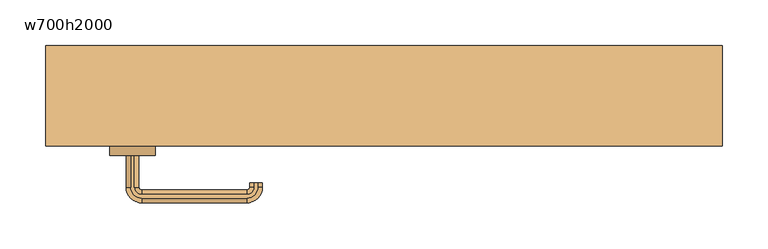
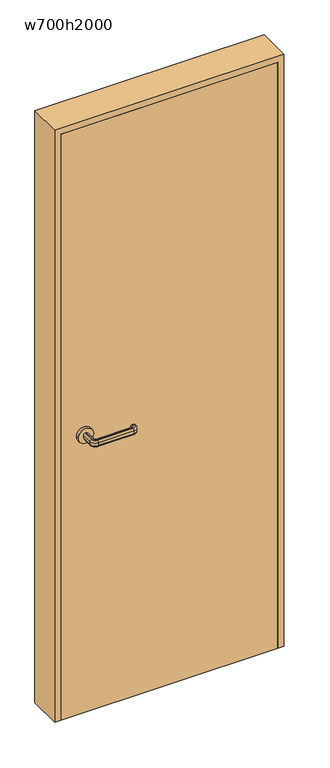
"""IFC4 building model written with IfcOpenShell, lengths in millimetres: door geometry, 片開き : w700h2000."""

from ifc_helpers import new_model, si_unit, point, frame, frame_2d, origin, origin_with_axes, place, context, project, spatial, polyline, circle_curve, ellipse_curve, trimmed, segment, composite_curve, outline, extrude, source, transform, mapped, element, save
from ifc_brep_helpers import plane_surface, cylinder_surface, revolved_surface, advanced_brep


def w700h2000_f851bcb9(model_context):
    return source(origin(), model_context, "Body", "SolidModel", [
        advanced_brep(
        [(-277.0, -65.0, 960.0), (-273.0, -65.0, 960.0), (-268.0, -65.0, 955.0), (-268.0, -65.0, 945.0477623), (-273.0, -65.0, 940.0477623), (-277.0, -65.0, 940.0477623), (-282.0, -65.0, 945.0477623), (-282.0, -65.0, 955.0), (-282.0, -100.0, 955.0), (-277.0, -100.0, 960.0), (-282.0, -100.0, 945.0477623), (-277.0, -100.0, 940.0477623), (-273.0, -100.0, 940.0477623), (-265.0, -108.0, 940.0477623), (-150.0, -108.0, 940.0477623), (-142.0, -100.0, 940.0477623), (-142.0, -95.0, 940.0477623), (-138.0, -95.0, 940.0477623), (-138.0, -100.0, 940.0477623), (-150.0, -112.0, 940.0477623), (-265.0, -112.0, 940.0477623), (-268.0, -100.0, 945.0477623), (-268.0, -100.0, 955.0), (-273.0, -100.0, 960.0), (-265.0, -112.0, 960.0), (-150.0, -112.0, 960.0), (-138.0, -100.0, 960.0), (-138.0, -95.0, 960.0), (-142.0, -95.0, 960.0), (-142.0, -100.0, 960.0), (-150.0, -108.0, 960.0), (-265.0, -108.0, 960.0), (-265.0, -117.0, 955.0), (-265.0, -117.0, 945.0477623), (-265.0, -103.0, 945.0477623), (-265.0, -103.0, 955.0), (-150.0, -117.0, 955.0), (-150.0, -117.0, 945.0477623), (-150.0, -103.0, 945.0477623), (-150.0, -103.0, 955.0), (-133.0, -100.0, 955.0), (-133.0, -100.0, 945.0477623), (-147.0, -100.0, 945.0477623), (-147.0, -100.0, 955.0), (-133.0, -95.0, 955.0), (-133.0, -95.0, 945.0477623), (-147.0, -95.0, 945.0477623), (-147.0, -95.0, 955.0)],
        [
            (0, 1),
            (1, 2, circle_curve(frame((-273.0, -65.0, 955.0), z_axis=(0.0, 1.0, 0.0), x_axis=(-1.0, 0.0, 0.0)), 5.0)),
            (2, 3),
            (3, 4, circle_curve(frame((-273.0, -65.0, 945.0477623), z_axis=(0.0, 1.0, 0.0), x_axis=(-1.0, 0.0, 0.0)), 5.0)),
            (4, 5),
            (5, 6, circle_curve(frame((-277.0, -65.0, 945.0477623), z_axis=(0.0, 1.0, 0.0), x_axis=(-1.0, 0.0, 0.0)), 5.0)),
            (6, 7),
            (7, 0, circle_curve(frame((-277.0, -65.0, 955.0), z_axis=(0.0, 1.0, 0.0), x_axis=(-1.0, 0.0, 0.0)), 5.0)),
            (7, 8),
            (8, 9, circle_curve(frame((-277.0, -100.0, 955.0), z_axis=(0.0, 1.0, 0.0), x_axis=(-1.0, 0.0, 0.0)), 5.0)),
            (9, 0),
            (6, 10),
            (10, 8),
            (5, 11),
            (11, 10, circle_curve(frame((-277.0, -100.0, 945.0477623), z_axis=(0.0, 1.0, 0.0), x_axis=(-1.0, 0.0, 0.0)), 5.0)),
            (4, 12),
            (12, 13, circle_curve(frame((-265.0, -100.0, 940.0477623), z_axis=(0.0, 0.0, 1.0), x_axis=(-1.0, 0.0, 0.0)), 8.0)),
            (13, 14),
            (14, 15, circle_curve(frame((-150.0, -100.0, 940.0477623), z_axis=(0.0, 0.0, 1.0), x_axis=(0.0, -1.0, 0.0)), 8.0)),
            (15, 16),
            (16, 17),
            (17, 18),
            (18, 19, circle_curve(frame((-150.0, -100.0, 940.0477623), z_axis=(0.0, 0.0, -1.0), x_axis=(0.0, -1.0, 0.0)), 12.0)),
            (19, 20),
            (20, 11, circle_curve(frame((-265.0, -100.0, 940.0477623), z_axis=(0.0, 0.0, -1.0), x_axis=(-1.0, 0.0, 0.0)), 12.0)),
            (3, 21),
            (21, 12, circle_curve(frame((-273.0, -100.0, 945.0477623), z_axis=(0.0, 1.0, 0.0), x_axis=(-1.0, 0.0, 0.0)), 5.0)),
            (2, 22),
            (22, 21),
            (1, 23),
            (23, 22, circle_curve(frame((-273.0, -100.0, 955.0), z_axis=(0.0, 1.0, 0.0), x_axis=(-1.0, 0.0, 0.0)), 5.0)),
            (9, 24, circle_curve(frame((-265.0, -100.0, 960.0), z_axis=(0.0, 0.0, 1.0), x_axis=(-1.0, 0.0, 0.0)), 12.0)),
            (24, 25),
            (25, 26, circle_curve(frame((-150.0, -100.0, 960.0), z_axis=(0.0, 0.0, 1.0), x_axis=(0.0, -1.0, 0.0)), 12.0)),
            (26, 27),
            (27, 28),
            (28, 29),
            (29, 30, circle_curve(frame((-150.0, -100.0, 960.0), z_axis=(0.0, 0.0, -1.0), x_axis=(0.0, -1.0, 0.0)), 8.0)),
            (30, 31),
            (31, 23, circle_curve(frame((-265.0, -100.0, 960.0), z_axis=(0.0, 0.0, -1.0), x_axis=(-1.0, 0.0, 0.0)), 8.0)),
            (32, 24, circle_curve(frame((-265.0, -112.0, 955.0), z_axis=(-1.0, 0.0, 0.0), x_axis=(0.0, -1.0, 0.0)), 5.0)),
            (8, 32, circle_curve(frame((-265.0, -100.0, 955.0), z_axis=(0.0, 0.0, 1.0), x_axis=(-1.0, 0.0, 0.0)), 17.0)),
            (33, 32),
            (10, 33, circle_curve(frame((-265.0, -100.0, 945.0477623), z_axis=(0.0, 0.0, 1.0), x_axis=(-1.0, 0.0, 0.0)), 17.0)),
            (20, 33, circle_curve(frame((-265.0, -112.0, 945.0477623), z_axis=(-1.0, 0.0, 0.0), x_axis=(0.0, -1.0, 0.0)), 5.0)),
            (34, 13, circle_curve(frame((-265.0, -108.0, 945.0477623), z_axis=(-1.0, 0.0, 0.0), x_axis=(0.0, -1.0, 0.0)), 5.0)),
            (21, 34, circle_curve(frame((-265.0, -100.0, 945.0477623), z_axis=(0.0, 0.0, 1.0), x_axis=(-1.0, 0.0, 0.0)), 3.0)),
            (35, 34),
            (22, 35, circle_curve(frame((-265.0, -100.0, 955.0), z_axis=(0.0, 0.0, 1.0), x_axis=(-1.0, 0.0, 0.0)), 3.0)),
            (31, 35, circle_curve(frame((-265.0, -108.0, 955.0), z_axis=(-1.0, 0.0, 0.0), x_axis=(0.0, -1.0, 0.0)), 5.0)),
            (32, 36),
            (36, 25, circle_curve(frame((-150.0, -112.0, 955.0), z_axis=(-1.0, 0.0, 0.0), x_axis=(0.0, -1.0, 0.0)), 5.0)),
            (33, 37),
            (37, 36),
            (19, 37, circle_curve(frame((-150.0, -112.0, 945.0477623), z_axis=(-1.0, 0.0, 0.0), x_axis=(0.0, -1.0, 0.0)), 5.0)),
            (34, 38),
            (38, 14, circle_curve(frame((-150.0, -108.0, 945.0477623), z_axis=(-1.0, 0.0, 0.0), x_axis=(0.0, -1.0, 0.0)), 5.0)),
            (35, 39),
            (39, 38),
            (30, 39, circle_curve(frame((-150.0, -108.0, 955.0), z_axis=(-1.0, 0.0, 0.0), x_axis=(0.0, -1.0, 0.0)), 5.0)),
            (40, 26, circle_curve(frame((-138.0, -100.0, 955.0), z_axis=(0.0, -1.0, 0.0), x_axis=(1.0, 0.0, 0.0)), 5.0)),
            (36, 40, circle_curve(frame((-150.0, -100.0, 955.0), z_axis=(0.0, 0.0, 1.0), x_axis=(0.0, -1.0, 0.0)), 17.0)),
            (41, 40),
            (37, 41, circle_curve(frame((-150.0, -100.0, 945.0477623), z_axis=(0.0, 0.0, 1.0), x_axis=(0.0, -1.0, 0.0)), 17.0)),
            (18, 41, circle_curve(frame((-138.0, -100.0, 945.0477623), z_axis=(0.0, -1.0, 0.0), x_axis=(1.0, 0.0, 0.0)), 5.0)),
            (42, 15, circle_curve(frame((-142.0, -100.0, 945.0477623), z_axis=(0.0, -1.0, 0.0), x_axis=(1.0, 0.0, 0.0)), 5.0)),
            (38, 42, circle_curve(frame((-150.0, -100.0, 945.0477623), z_axis=(0.0, 0.0, 1.0), x_axis=(0.0, -1.0, 0.0)), 3.0)),
            (43, 42),
            (39, 43, circle_curve(frame((-150.0, -100.0, 955.0), z_axis=(0.0, 0.0, 1.0), x_axis=(0.0, -1.0, 0.0)), 3.0)),
            (29, 43, circle_curve(frame((-142.0, -100.0, 955.0), z_axis=(0.0, -1.0, 0.0), x_axis=(1.0, 0.0, 0.0)), 5.0)),
            (27, 44, circle_curve(frame((-138.0, -95.0, 955.0), z_axis=(0.0, 1.0, 0.0), x_axis=(1.0, 0.0, 0.0)), 5.0)),
            (44, 45),
            (45, 17, circle_curve(frame((-138.0, -95.0, 945.0477623), z_axis=(0.0, 1.0, 0.0), x_axis=(1.0, 0.0, 0.0)), 5.0)),
            (16, 46, circle_curve(frame((-142.0, -95.0, 945.0477623), z_axis=(0.0, 1.0, 0.0), x_axis=(1.0, 0.0, 0.0)), 5.0)),
            (46, 47),
            (47, 28, circle_curve(frame((-142.0, -95.0, 955.0), z_axis=(0.0, 1.0, 0.0), x_axis=(1.0, 0.0, 0.0)), 5.0)),
            (40, 44),
            (41, 45),
            (42, 46),
            (43, 47),
        ],
        [
            plane_surface(frame((-285.198039, -65.0, 950.0), z_axis=(0.0, 1.0, 0.0), x_axis=(0.0, 0.0, 1.0))),
            cylinder_surface(frame((-277.0, -65.0, 955.0), z_axis=(0.0, 1.0, 0.0), x_axis=(-1.0, 0.0, 0.0)), 5.0),
            plane_surface(frame((-282.0, -65.0, 955.0), z_axis=(-1.0, 0.0, 0.0), x_axis=(0.0, -1.0, 0.0))),
            cylinder_surface(frame((-277.0, -65.0, 945.0477623), z_axis=(0.0, 1.0, 0.0), x_axis=(-1.0, 0.0, 0.0)), 5.0),
            plane_surface(frame((-277.0, -65.0, 940.0477623), z_axis=(0.0, 0.0, -1.0), x_axis=(0.0, -1.0, 0.0))),
            cylinder_surface(frame((-273.0, -65.0, 945.0477623), z_axis=(0.0, 1.0, 0.0), x_axis=(-1.0, 0.0, 0.0)), 5.0),
            plane_surface(frame((-268.0, -65.0, 945.0477623), z_axis=(1.0, 0.0, 0.0), x_axis=(0.0, -1.0, 0.0))),
            cylinder_surface(frame((-273.0, -65.0, 955.0), z_axis=(0.0, 1.0, 0.0), x_axis=(-1.0, 0.0, 0.0)), 5.0),
            plane_surface(frame((-273.0, -65.0, 960.0), z_axis=(0.0, 0.0, 1.0), x_axis=(0.0, -1.0, 0.0))),
            revolved_surface(trimmed(ellipse_curve(frame((-277.0, -100.0, 955.0), z_axis=(0.0, -1.0, 0.0), x_axis=(-1.0, 0.0, 0.0)), 5.0, 5.0), [point((-277.0, -100.0, 960.0))], [point((-282.0, -100.0, 955.0))], True, "CARTESIAN"), (-265.0, -100.0, 950.0), (0.0, 0.0, -1.0)),
            cylinder_surface(frame((-265.0, -100.0, 950.0), z_axis=(0.0, 0.0, -1.0), x_axis=(-1.0, 0.0, 0.0)), 17.0),
            revolved_surface(trimmed(ellipse_curve(frame((-277.0, -100.0, 945.0477623), z_axis=(0.0, -1.0, 0.0), x_axis=(-1.0, 0.0, 0.0)), 5.0, 5.0), [point((-282.0, -100.0, 945.0477623))], [point((-277.0, -100.0, 940.0477623))], True, "CARTESIAN"), (-265.0, -100.0, 950.0), (0.0, 0.0, -1.0)),
            revolved_surface(trimmed(ellipse_curve(frame((-273.0, -100.0, 945.0477623), z_axis=(0.0, -1.0, 0.0), x_axis=(-1.0, 0.0, 0.0)), 5.0, 5.0), [point((-273.0, -100.0, 940.0477623))], [point((-268.0, -100.0, 945.0477623))], True, "CARTESIAN"), (-265.0, -100.0, 950.0), (0.0, 0.0, -1.0)),
            revolved_surface(polyline([(-268.0, -100.0, 945.0477623), (-268.0, -100.0, 955.0)]), (-265.0, -100.0, 950.0), (0.0, 0.0, -1.0)),
            revolved_surface(trimmed(ellipse_curve(frame((-273.0, -100.0, 955.0), z_axis=(0.0, -1.0, 0.0), x_axis=(-1.0, 0.0, 0.0)), 5.0, 5.0), [point((-268.0, -100.0, 955.0))], [point((-273.0, -100.0, 960.0))], True, "CARTESIAN"), (-265.0, -100.0, 950.0), (0.0, 0.0, -1.0)),
            cylinder_surface(frame((-265.0, -112.0, 955.0), z_axis=(-1.0, 0.0, 0.0), x_axis=(0.0, -1.0, 0.0)), 5.0),
            plane_surface(frame((-265.0, -117.0, 955.0), z_axis=(0.0, -1.0, 0.0), x_axis=(1.0, 0.0, 0.0))),
            cylinder_surface(frame((-265.0, -112.0, 945.0477623), z_axis=(-1.0, 0.0, 0.0), x_axis=(0.0, -1.0, 0.0)), 5.0),
            cylinder_surface(frame((-265.0, -108.0, 945.0477623), z_axis=(-1.0, 0.0, 0.0), x_axis=(0.0, -1.0, 0.0)), 5.0),
            plane_surface(frame((-265.0, -103.0, 945.0477623), z_axis=(0.0, 1.0, 0.0), x_axis=(1.0, 0.0, 0.0))),
            cylinder_surface(frame((-265.0, -108.0, 955.0), z_axis=(-1.0, 0.0, 0.0), x_axis=(0.0, -1.0, 0.0)), 5.0),
            revolved_surface(trimmed(ellipse_curve(frame((-150.0, -112.0, 955.0), z_axis=(1.0, 0.0, 0.0), x_axis=(0.0, -1.0, 0.0)), 5.0, 5.0), [point((-150.0, -112.0, 960.0))], [point((-150.0, -117.0, 955.0))], True, "CARTESIAN"), (-150.0, -100.0, 950.0), (0.0, 0.0, -1.0)),
            cylinder_surface(frame((-150.0, -100.0, 950.0), z_axis=(0.0, 0.0, -1.0), x_axis=(0.0, -1.0, 0.0)), 17.0),
            revolved_surface(trimmed(ellipse_curve(frame((-150.0, -112.0, 945.0477623), z_axis=(1.0, 0.0, 0.0), x_axis=(0.0, -1.0, 0.0)), 5.0, 5.0), [point((-150.0, -117.0, 945.0477623))], [point((-150.0, -112.0, 940.0477623))], True, "CARTESIAN"), (-150.0, -100.0, 950.0), (0.0, 0.0, -1.0)),
            revolved_surface(trimmed(ellipse_curve(frame((-150.0, -108.0, 945.0477623), z_axis=(1.0, 0.0, 0.0), x_axis=(0.0, -1.0, 0.0)), 5.0, 5.0), [point((-150.0, -108.0, 940.0477623))], [point((-150.0, -103.0, 945.0477623))], True, "CARTESIAN"), (-150.0, -100.0, 950.0), (0.0, 0.0, -1.0)),
            revolved_surface(polyline([(-150.0, -103.0, 945.0477623), (-150.0, -103.0, 955.0)]), (-150.0, -100.0, 950.0), (0.0, 0.0, -1.0)),
            revolved_surface(trimmed(ellipse_curve(frame((-150.0, -108.0, 955.0), z_axis=(1.0, 0.0, 0.0), x_axis=(0.0, -1.0, 0.0)), 5.0, 5.0), [point((-150.0, -103.0, 955.0))], [point((-150.0, -108.0, 960.0))], True, "CARTESIAN"), (-150.0, -100.0, 950.0), (0.0, 0.0, -1.0)),
            plane_surface(frame((-150.198039, -95.0, 950.0), z_axis=(0.0, 1.0, 0.0), x_axis=(0.0, 0.0, -1.0))),
            cylinder_surface(frame((-138.0, -100.0, 955.0), z_axis=(0.0, -1.0, 0.0), x_axis=(1.0, 0.0, 0.0)), 5.0),
            plane_surface(frame((-133.0, -100.0, 955.0), z_axis=(1.0, 0.0, 0.0), x_axis=(0.0, 1.0, 0.0))),
            cylinder_surface(frame((-138.0, -100.0, 945.0477623), z_axis=(0.0, -1.0, 0.0), x_axis=(1.0, 0.0, 0.0)), 5.0),
            cylinder_surface(frame((-142.0, -100.0, 945.0477623), z_axis=(0.0, -1.0, 0.0), x_axis=(1.0, 0.0, 0.0)), 5.0),
            plane_surface(frame((-147.0, -100.0, 945.0477623), z_axis=(-1.0, 0.0, 0.0), x_axis=(0.0, 1.0, 0.0))),
            cylinder_surface(frame((-142.0, -100.0, 955.0), z_axis=(0.0, -1.0, 0.0), x_axis=(1.0, 0.0, 0.0)), 5.0),
        ],
        [
            (0, [[1, 2, 3, 4, 5, 6, 7, 8]]),
            (1, [[9, 10, 11, -8]]),
            (2, [[12, 13, -9, -7]]),
            (3, [[14, 15, -12, -6]]),
            (4, [[16, 17, 18, 19, 20, 21, 22, 23, 24, 25, -14, -5]]),
            (5, [[26, 27, -16, -4]]),
            (6, [[28, 29, -26, -3]]),
            (7, [[30, 31, -28, -2]]),
            (8, [[-11, 32, 33, 34, 35, 36, 37, 38, 39, 40, -30, -1]]),
            (9, [[41, -32, -10, 42]]),
            (10, [[43, -42, -13, 44]]),
            (11, [[45, -44, -15, -25]]),
            (12, [[46, -17, -27, 47]]),
            (13, [[48, -47, -29, 49]]),
            (14, [[50, -49, -31, -40]]),
            (15, [[51, 52, -33, -41]]),
            (16, [[53, 54, -51, -43]]),
            (17, [[-24, 55, -53, -45]]),
            (18, [[56, 57, -18, -46]]),
            (19, [[58, 59, -56, -48]]),
            (20, [[-39, 60, -58, -50]]),
            (21, [[61, -34, -52, 62]]),
            (22, [[63, -62, -54, 64]]),
            (23, [[65, -64, -55, -23]]),
            (24, [[66, -19, -57, 67]]),
            (25, [[68, -67, -59, 69]]),
            (26, [[70, -69, -60, -38]]),
            (27, [[71, 72, 73, -21, 74, 75, 76, -36]]),
            (28, [[77, -71, -35, -61]]),
            (29, [[78, -72, -77, -63]]),
            (30, [[-22, -73, -78, -65]]),
            (31, [[79, -74, -20, -66]]),
            (32, [[80, -75, -79, -68]]),
            (33, [[-37, -76, -80, -70]]),
        ],
    ),
        advanced_brep(
        [(-273.0, -15.0, 940.0), (-268.0, -15.0, 945.0), (-268.0, -15.0, 955.0), (-273.0, -15.0, 960.0), (-277.0, -15.0, 960.0), (-282.0, -15.0, 955.0), (-282.0, -15.0, 945.0), (-277.0, -15.0, 940.0), (-277.0, 20.0, 940.0), (-265.0, 32.0, 940.0), (-150.0, 32.0, 940.0), (-138.0, 20.0, 940.0), (-138.0, 15.0, 940.0), (-142.0, 15.0, 940.0), (-142.0, 20.0, 940.0), (-150.0, 28.0, 940.0), (-265.0, 28.0, 940.0), (-273.0, 20.0, 940.0), (-282.0, 20.0, 945.0), (-282.0, 20.0, 955.0), (-277.0, 20.0, 960.0), (-273.0, 20.0, 960.0), (-265.0, 28.0, 960.0), (-150.0, 28.0, 960.0), (-142.0, 20.0, 960.0), (-142.0, 15.0, 960.0), (-138.0, 15.0, 960.0), (-138.0, 20.0, 960.0), (-150.0, 32.0, 960.0), (-265.0, 32.0, 960.0), (-268.0, 20.0, 955.0), (-268.0, 20.0, 945.0), (-265.0, 37.0, 945.0), (-265.0, 37.0, 955.0), (-265.0, 23.0, 955.0), (-265.0, 23.0, 945.0), (-150.0, 37.0, 945.0), (-150.0, 37.0, 955.0), (-150.0, 23.0, 955.0), (-150.0, 23.0, 945.0), (-133.0, 20.0, 945.0), (-133.0, 20.0, 955.0), (-147.0, 20.0, 955.0), (-147.0, 20.0, 945.0), (-133.0, 15.0, 945.0), (-133.0, 15.0, 955.0), (-147.0, 15.0, 955.0), (-147.0, 15.0, 945.0)],
        [
            (0, 1, circle_curve(frame((-273.0, -15.0, 945.0), z_axis=(0.0, -1.0, 0.0), x_axis=(1.0, 0.0, 0.0)), 5.0)),
            (1, 2),
            (2, 3, circle_curve(frame((-273.0, -15.0, 955.0), z_axis=(0.0, -1.0, 0.0), x_axis=(1.0, 0.0, 0.0)), 5.0)),
            (3, 4),
            (4, 5, circle_curve(frame((-277.0, -15.0, 955.0), z_axis=(0.0, -1.0, 0.0), x_axis=(1.0, 0.0, 0.0)), 5.0)),
            (5, 6),
            (6, 7, circle_curve(frame((-277.0, -15.0, 945.0), z_axis=(0.0, -1.0, 0.0), x_axis=(1.0, 0.0, 0.0)), 5.0)),
            (7, 0),
            (7, 8),
            (8, 9, circle_curve(frame((-265.0, 20.0, 940.0), z_axis=(0.0, 0.0, -1.0), x_axis=(-1.0, 0.0, 0.0)), 12.0)),
            (9, 10),
            (10, 11, circle_curve(frame((-150.0, 20.0, 940.0), z_axis=(0.0, 0.0, -1.0), x_axis=(0.0, 1.0, 0.0)), 12.0)),
            (11, 12),
            (12, 13),
            (13, 14),
            (14, 15, circle_curve(frame((-150.0, 20.0, 940.0), z_axis=(0.0, 0.0, 1.0), x_axis=(0.0, 1.0, 0.0)), 8.0)),
            (15, 16),
            (16, 17, circle_curve(frame((-265.0, 20.0, 940.0), z_axis=(0.0, 0.0, 1.0), x_axis=(-1.0, 0.0, 0.0)), 8.0)),
            (17, 0),
            (6, 18),
            (18, 8, circle_curve(frame((-277.0, 20.0, 945.0), z_axis=(0.0, -1.0, 0.0), x_axis=(1.0, 0.0, 0.0)), 5.0)),
            (5, 19),
            (19, 18),
            (4, 20),
            (20, 19, circle_curve(frame((-277.0, 20.0, 955.0), z_axis=(0.0, -1.0, 0.0), x_axis=(1.0, 0.0, 0.0)), 5.0)),
            (3, 21),
            (21, 22, circle_curve(frame((-265.0, 20.0, 960.0), z_axis=(0.0, 0.0, -1.0), x_axis=(-1.0, 0.0, 0.0)), 8.0)),
            (22, 23),
            (23, 24, circle_curve(frame((-150.0, 20.0, 960.0), z_axis=(0.0, 0.0, -1.0), x_axis=(0.0, 1.0, 0.0)), 8.0)),
            (24, 25),
            (25, 26),
            (26, 27),
            (27, 28, circle_curve(frame((-150.0, 20.0, 960.0), z_axis=(0.0, 0.0, 1.0), x_axis=(0.0, 1.0, 0.0)), 12.0)),
            (28, 29),
            (29, 20, circle_curve(frame((-265.0, 20.0, 960.0), z_axis=(0.0, 0.0, 1.0), x_axis=(-1.0, 0.0, 0.0)), 12.0)),
            (2, 30),
            (30, 21, circle_curve(frame((-273.0, 20.0, 955.0), z_axis=(0.0, -1.0, 0.0), x_axis=(1.0, 0.0, 0.0)), 5.0)),
            (1, 31),
            (31, 30),
            (17, 31, circle_curve(frame((-273.0, 20.0, 945.0), z_axis=(0.0, -1.0, 0.0), x_axis=(1.0, 0.0, 0.0)), 5.0)),
            (32, 9, circle_curve(frame((-265.0, 32.0, 945.0), z_axis=(-1.0, 0.0, 0.0), x_axis=(0.0, -1.0, 0.0)), 5.0)),
            (18, 32, circle_curve(frame((-265.0, 20.0, 945.0), z_axis=(0.0, 0.0, -1.0), x_axis=(-1.0, 0.0, 0.0)), 17.0)),
            (33, 32),
            (19, 33, circle_curve(frame((-265.0, 20.0, 955.0), z_axis=(0.0, 0.0, -1.0), x_axis=(-1.0, 0.0, 0.0)), 17.0)),
            (29, 33, circle_curve(frame((-265.0, 32.0, 955.0), z_axis=(-1.0, 0.0, 0.0), x_axis=(0.0, -1.0, 0.0)), 5.0)),
            (34, 22, circle_curve(frame((-265.0, 28.0, 955.0), z_axis=(-1.0, 0.0, 0.0), x_axis=(0.0, -1.0, 0.0)), 5.0)),
            (30, 34, circle_curve(frame((-265.0, 20.0, 955.0), z_axis=(0.0, 0.0, -1.0), x_axis=(-1.0, 0.0, 0.0)), 3.0)),
            (35, 34),
            (31, 35, circle_curve(frame((-265.0, 20.0, 945.0), z_axis=(0.0, 0.0, -1.0), x_axis=(-1.0, 0.0, 0.0)), 3.0)),
            (16, 35, circle_curve(frame((-265.0, 28.0, 945.0), z_axis=(-1.0, 0.0, 0.0), x_axis=(0.0, -1.0, 0.0)), 5.0)),
            (32, 36),
            (36, 10, circle_curve(frame((-150.0, 32.0, 945.0), z_axis=(-1.0, 0.0, 0.0), x_axis=(0.0, -1.0, 0.0)), 5.0)),
            (33, 37),
            (37, 36),
            (28, 37, circle_curve(frame((-150.0, 32.0, 955.0), z_axis=(-1.0, 0.0, 0.0), x_axis=(0.0, -1.0, 0.0)), 5.0)),
            (34, 38),
            (38, 23, circle_curve(frame((-150.0, 28.0, 955.0), z_axis=(-1.0, 0.0, 0.0), x_axis=(0.0, -1.0, 0.0)), 5.0)),
            (35, 39),
            (39, 38),
            (15, 39, circle_curve(frame((-150.0, 28.0, 945.0), z_axis=(-1.0, 0.0, 0.0), x_axis=(0.0, -1.0, 0.0)), 5.0)),
            (40, 11, circle_curve(frame((-138.0, 20.0, 945.0), z_axis=(0.0, 1.0, 0.0), x_axis=(-1.0, 0.0, 0.0)), 5.0)),
            (36, 40, circle_curve(frame((-150.0, 20.0, 945.0), z_axis=(0.0, 0.0, -1.0), x_axis=(0.0, 1.0, 0.0)), 17.0)),
            (41, 40),
            (37, 41, circle_curve(frame((-150.0, 20.0, 955.0), z_axis=(0.0, 0.0, -1.0), x_axis=(0.0, 1.0, 0.0)), 17.0)),
            (27, 41, circle_curve(frame((-138.0, 20.0, 955.0), z_axis=(0.0, 1.0, 0.0), x_axis=(-1.0, 0.0, 0.0)), 5.0)),
            (42, 24, circle_curve(frame((-142.0, 20.0, 955.0), z_axis=(0.0, 1.0, 0.0), x_axis=(-1.0, 0.0, 0.0)), 5.0)),
            (38, 42, circle_curve(frame((-150.0, 20.0, 955.0), z_axis=(0.0, 0.0, -1.0), x_axis=(0.0, 1.0, 0.0)), 3.0)),
            (43, 42),
            (39, 43, circle_curve(frame((-150.0, 20.0, 945.0), z_axis=(0.0, 0.0, -1.0), x_axis=(0.0, 1.0, 0.0)), 3.0)),
            (14, 43, circle_curve(frame((-142.0, 20.0, 945.0), z_axis=(0.0, 1.0, 0.0), x_axis=(-1.0, 0.0, 0.0)), 5.0)),
            (12, 44, circle_curve(frame((-138.0, 15.0, 945.0), z_axis=(0.0, -1.0, 0.0), x_axis=(-1.0, 0.0, 0.0)), 5.0)),
            (44, 45),
            (45, 26, circle_curve(frame((-138.0, 15.0, 955.0), z_axis=(0.0, -1.0, 0.0), x_axis=(-1.0, 0.0, 0.0)), 5.0)),
            (25, 46, circle_curve(frame((-142.0, 15.0, 955.0), z_axis=(0.0, -1.0, 0.0), x_axis=(-1.0, 0.0, 0.0)), 5.0)),
            (46, 47),
            (47, 13, circle_curve(frame((-142.0, 15.0, 945.0), z_axis=(0.0, -1.0, 0.0), x_axis=(-1.0, 0.0, 0.0)), 5.0)),
            (40, 44),
            (41, 45),
            (42, 46),
            (43, 47),
        ],
        [
            plane_surface(frame((-285.198039, -15.0, 950.0), z_axis=(0.0, -1.0, 0.0), x_axis=(0.0, 0.0, -1.0))),
            plane_surface(frame((-273.0, -15.0, 940.0), z_axis=(0.0, 0.0, -1.0), x_axis=(0.0, 1.0, 0.0))),
            cylinder_surface(frame((-277.0, -15.0, 945.0), z_axis=(0.0, -1.0, 0.0), x_axis=(1.0, 0.0, 0.0)), 5.0),
            plane_surface(frame((-282.0, -15.0, 945.0), z_axis=(-1.0, 0.0, 0.0), x_axis=(0.0, 1.0, 0.0))),
            cylinder_surface(frame((-277.0, -15.0, 955.0), z_axis=(0.0, -1.0, 0.0), x_axis=(1.0, 0.0, 0.0)), 5.0),
            plane_surface(frame((-277.0, -15.0, 960.0), z_axis=(0.0, 0.0, 1.0), x_axis=(0.0, 1.0, 0.0))),
            cylinder_surface(frame((-273.0, -15.0, 955.0), z_axis=(0.0, -1.0, 0.0), x_axis=(1.0, 0.0, 0.0)), 5.0),
            plane_surface(frame((-268.0, -15.0, 955.0), z_axis=(1.0, 0.0, 0.0), x_axis=(0.0, 1.0, 0.0))),
            cylinder_surface(frame((-273.0, -15.0, 945.0), z_axis=(0.0, -1.0, 0.0), x_axis=(1.0, 0.0, 0.0)), 5.0),
            revolved_surface(trimmed(ellipse_curve(frame((-277.0, 20.0, 945.0), z_axis=(0.0, 1.0, 0.0), x_axis=(1.0, 0.0, 0.0)), 5.0, 5.0), [point((-277.0, 20.0, 940.0))], [point((-282.0, 20.0, 945.0))], True, "CARTESIAN"), (-265.0, 20.0, 950.0), (0.0, 0.0, 1.0)),
            cylinder_surface(frame((-265.0, 20.0, 950.0), z_axis=(0.0, 0.0, 1.0), x_axis=(-1.0, 0.0, 0.0)), 17.0),
            revolved_surface(trimmed(ellipse_curve(frame((-277.0, 20.0, 955.0), z_axis=(0.0, 1.0, 0.0), x_axis=(1.0, 0.0, 0.0)), 5.0, 5.0), [point((-282.0, 20.0, 955.0))], [point((-277.0, 20.0, 960.0))], True, "CARTESIAN"), (-265.0, 20.0, 950.0), (0.0, 0.0, 1.0)),
            revolved_surface(trimmed(ellipse_curve(frame((-273.0, 20.0, 955.0), z_axis=(0.0, 1.0, 0.0), x_axis=(1.0, 0.0, 0.0)), 5.0, 5.0), [point((-273.0, 20.0, 960.0))], [point((-268.0, 20.0, 955.0))], True, "CARTESIAN"), (-265.0, 20.0, 950.0), (0.0, 0.0, 1.0)),
            revolved_surface(polyline([(-268.0, 20.0, 955.0), (-268.0, 20.0, 945.0)]), (-265.0, 20.0, 950.0), (0.0, 0.0, 1.0)),
            revolved_surface(trimmed(ellipse_curve(frame((-273.0, 20.0, 945.0), z_axis=(0.0, 1.0, 0.0), x_axis=(1.0, 0.0, 0.0)), 5.0, 5.0), [point((-268.0, 20.0, 945.0))], [point((-273.0, 20.0, 940.0))], True, "CARTESIAN"), (-265.0, 20.0, 950.0), (0.0, 0.0, 1.0)),
            cylinder_surface(frame((-265.0, 32.0, 945.0), z_axis=(-1.0, 0.0, 0.0), x_axis=(0.0, -1.0, 0.0)), 5.0),
            plane_surface(frame((-265.0, 37.0, 945.0), z_axis=(0.0, 1.0, 0.0), x_axis=(1.0, 0.0, 0.0))),
            cylinder_surface(frame((-265.0, 32.0, 955.0), z_axis=(-1.0, 0.0, 0.0), x_axis=(0.0, -1.0, 0.0)), 5.0),
            cylinder_surface(frame((-265.0, 28.0, 955.0), z_axis=(-1.0, 0.0, 0.0), x_axis=(0.0, -1.0, 0.0)), 5.0),
            plane_surface(frame((-265.0, 23.0, 955.0), z_axis=(0.0, -1.0, 0.0), x_axis=(1.0, 0.0, 0.0))),
            cylinder_surface(frame((-265.0, 28.0, 945.0), z_axis=(-1.0, 0.0, 0.0), x_axis=(0.0, -1.0, 0.0)), 5.0),
            revolved_surface(trimmed(ellipse_curve(frame((-150.0, 32.0, 945.0), z_axis=(1.0, 0.0, 0.0), x_axis=(0.0, -1.0, 0.0)), 5.0, 5.0), [point((-150.0, 32.0, 940.0))], [point((-150.0, 37.0, 945.0))], True, "CARTESIAN"), (-150.0, 20.0, 950.0), (0.0, 0.0, 1.0)),
            cylinder_surface(frame((-150.0, 20.0, 950.0), z_axis=(0.0, 0.0, 1.0), x_axis=(0.0, 1.0, 0.0)), 17.0),
            revolved_surface(trimmed(ellipse_curve(frame((-150.0, 32.0, 955.0), z_axis=(1.0, 0.0, 0.0), x_axis=(0.0, -1.0, 0.0)), 5.0, 5.0), [point((-150.0, 37.0, 955.0))], [point((-150.0, 32.0, 960.0))], True, "CARTESIAN"), (-150.0, 20.0, 950.0), (0.0, 0.0, 1.0)),
            revolved_surface(trimmed(ellipse_curve(frame((-150.0, 28.0, 955.0), z_axis=(1.0, 0.0, 0.0), x_axis=(0.0, -1.0, 0.0)), 5.0, 5.0), [point((-150.0, 28.0, 960.0))], [point((-150.0, 23.0, 955.0))], True, "CARTESIAN"), (-150.0, 20.0, 950.0), (0.0, 0.0, 1.0)),
            revolved_surface(polyline([(-150.0, 23.0, 955.0), (-150.0, 23.0, 945.0)]), (-150.0, 20.0, 950.0), (0.0, 0.0, 1.0)),
            revolved_surface(trimmed(ellipse_curve(frame((-150.0, 28.0, 945.0), z_axis=(1.0, 0.0, 0.0), x_axis=(0.0, -1.0, 0.0)), 5.0, 5.0), [point((-150.0, 23.0, 945.0))], [point((-150.0, 28.0, 940.0))], True, "CARTESIAN"), (-150.0, 20.0, 950.0), (0.0, 0.0, 1.0)),
            plane_surface(frame((-150.198039, 15.0, 950.0), z_axis=(0.0, -1.0, 0.0), x_axis=(0.0, 0.0, 1.0))),
            cylinder_surface(frame((-138.0, 20.0, 945.0), z_axis=(0.0, 1.0, 0.0), x_axis=(-1.0, 0.0, 0.0)), 5.0),
            plane_surface(frame((-133.0, 20.0, 945.0), z_axis=(1.0, 0.0, 0.0), x_axis=(0.0, -1.0, 0.0))),
            cylinder_surface(frame((-138.0, 20.0, 955.0), z_axis=(0.0, 1.0, 0.0), x_axis=(-1.0, 0.0, 0.0)), 5.0),
            cylinder_surface(frame((-142.0, 20.0, 955.0), z_axis=(0.0, 1.0, 0.0), x_axis=(-1.0, 0.0, 0.0)), 5.0),
            plane_surface(frame((-147.0, 20.0, 955.0), z_axis=(-1.0, 0.0, 0.0), x_axis=(0.0, -1.0, 0.0))),
            cylinder_surface(frame((-142.0, 20.0, 945.0), z_axis=(0.0, 1.0, 0.0), x_axis=(-1.0, 0.0, 0.0)), 5.0),
        ],
        [
            (0, [[1, 2, 3, 4, 5, 6, 7, 8]]),
            (1, [[9, 10, 11, 12, 13, 14, 15, 16, 17, 18, 19, -8]]),
            (2, [[20, 21, -9, -7]]),
            (3, [[22, 23, -20, -6]]),
            (4, [[24, 25, -22, -5]]),
            (5, [[26, 27, 28, 29, 30, 31, 32, 33, 34, 35, -24, -4]]),
            (6, [[36, 37, -26, -3]]),
            (7, [[38, 39, -36, -2]]),
            (8, [[-19, 40, -38, -1]]),
            (9, [[41, -10, -21, 42]]),
            (10, [[43, -42, -23, 44]]),
            (11, [[45, -44, -25, -35]]),
            (12, [[46, -27, -37, 47]]),
            (13, [[48, -47, -39, 49]]),
            (14, [[50, -49, -40, -18]]),
            (15, [[51, 52, -11, -41]]),
            (16, [[53, 54, -51, -43]]),
            (17, [[-34, 55, -53, -45]]),
            (18, [[56, 57, -28, -46]]),
            (19, [[58, 59, -56, -48]]),
            (20, [[-17, 60, -58, -50]]),
            (21, [[61, -12, -52, 62]]),
            (22, [[63, -62, -54, 64]]),
            (23, [[65, -64, -55, -33]]),
            (24, [[66, -29, -57, 67]]),
            (25, [[68, -67, -59, 69]]),
            (26, [[70, -69, -60, -16]]),
            (27, [[-14, 71, 72, 73, -31, 74, 75, 76]]),
            (28, [[77, -71, -13, -61]]),
            (29, [[78, -72, -77, -63]]),
            (30, [[-32, -73, -78, -65]]),
            (31, [[79, -74, -30, -66]]),
            (32, [[80, -75, -79, -68]]),
            (33, [[-15, -76, -80, -70]]),
        ],
    ),
        extrude(outline(composite_curve([segment(trimmed(circle_curve(frame_2d((950.0, -275.0)), 25.0), [point((950.0, -300.0))], [point((950.0, -250.0))], False, "CARTESIAN"), True, "CONTINUOUS"), segment(trimmed(circle_curve(frame_2d((950.0, -275.0)), 25.0), [point((950.0, -250.0))], [point((950.0, -300.0))], False, "CARTESIAN"), True, "CONTINUOUS")], self_intersect=False)), frame((0.0, -65.0, 0.0), z_axis=(0.0, 1.0, 0.0), x_axis=(0.0, 0.0, 1.0)), (0.0, 0.0, 1.0), 10.0),
        extrude(outline(composite_curve([segment(trimmed(circle_curve(frame_2d((950.0, -275.0)), 25.0), [point((950.0, -300.0))], [point((950.0, -250.0))], False, "CARTESIAN"), True, "CONTINUOUS"), segment(trimmed(circle_curve(frame_2d((950.0, -275.0)), 25.0), [point((950.0, -250.0))], [point((950.0, -300.0))], False, "CARTESIAN"), True, "CONTINUOUS")], self_intersect=False)), frame((0.0, -25.0, 0.0), z_axis=(0.0, 1.0, 0.0), x_axis=(0.0, 0.0, 1.0)), (0.0, 0.0, 1.0), 10.0),
        extrude(outline(polyline([(2020.0, -370.0), (0.0, -370.0), (0.0, -350.0), (2000.0, -350.0), (2000.0, 350.0), (0.0, 350.0), (0.0, 370.0), (2020.0, 370.0), (2020.0, -370.0)])), frame((0.0, -55.0, 0.0), z_axis=(0.0, 1.0, 0.0), x_axis=(0.0, 0.0, 1.0)), (0.0, 0.0, 1.0), 110.0),
        extrude(outline(polyline([(350.0, -25.0), (350.0, -55.0), (-350.0, -55.0), (-350.0, -25.0), (350.0, -25.0)])), origin_with_axes(), (0.0, 0.0, 1.0), 2000.0),
    ])


if __name__ == "__main__":
    model = new_model("IFC4")
    model_context = context("Model", 3, world=origin())
    ifc_project = project(units=[si_unit("LENGTHUNIT", "METRE", prefix="MILLI")], contexts=[model_context])
    site = spatial("IfcSite", under=ifc_project)
    building = spatial("IfcBuilding", under=site)
    placement = place(None, origin())
    w700h2000_shape = w700h2000_f851bcb9(model_context)
    element("IfcDoor", 1, ObjectType="片開き : w700h2000", at=placement, inside=building, context=model_context, shape_type="MappedRepresentation", body=[
        mapped(w700h2000_shape, transform((0.0, 0.0, 0.0), x_axis=(1.0, 0.0, 0.0), y_axis=(0.0, 1.0, 0.0), z_axis=(0.0, 0.0, 1.0))),
    ])
    save(model, "model.ifc")
